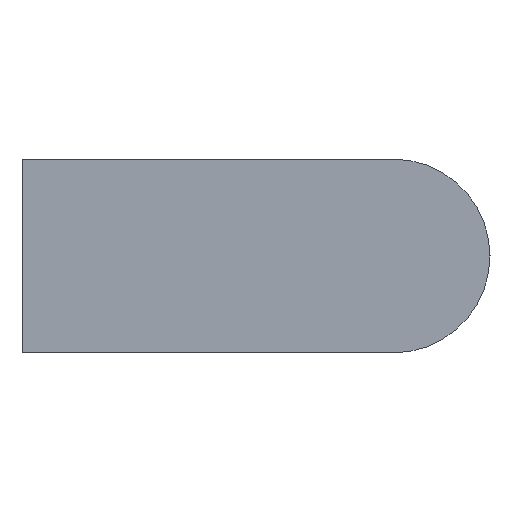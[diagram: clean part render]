
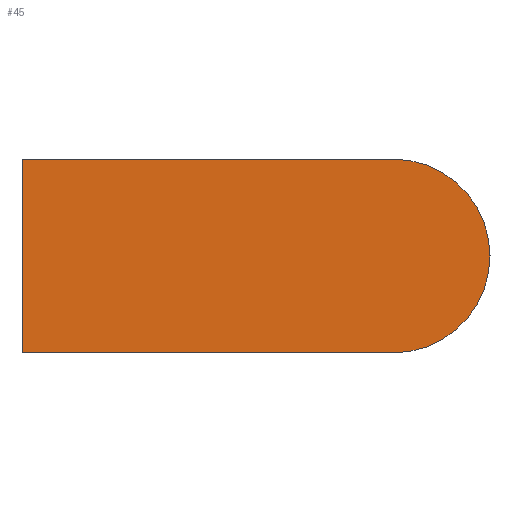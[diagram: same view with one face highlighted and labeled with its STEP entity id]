
A CAD part, left-side view. The second image highlights one B-rep face of the part: STEP entity #45.
In plain terms, the highlighted planar face has unit normal (-1, 0, 0).
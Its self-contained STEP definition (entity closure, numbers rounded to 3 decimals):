
#45 = ADVANCED_FACE( '', ( #99 ), #100, .F. );
#99 = FACE_OUTER_BOUND( '', #164, .T. );
#100 = PLANE( '', #165 );
#164 = EDGE_LOOP( '', ( #230, #231, #232, #233 ) );
#165 = AXIS2_PLACEMENT_3D( '', #234, #235, #236 );
#230 = ORIENTED_EDGE( '', *, *, #352, .F. );
#231 = ORIENTED_EDGE( '', *, *, #353, .F. );
#232 = ORIENTED_EDGE( '', *, *, #347, .F. );
#233 = ORIENTED_EDGE( '', *, *, #354, .F. );
#234 = CARTESIAN_POINT( '', ( -15., -28.04, 0. ) );
#235 = DIRECTION( '', ( 1., 0., 0. ) );
#236 = DIRECTION( '', ( 0., 0., -1. ) );
#347 = EDGE_CURVE( '', #396, #397, #398, .T. );
#352 = EDGE_CURVE( '', #405, #406, #407, .T. );
#353 = EDGE_CURVE( '', #397, #405, #408, .T. );
#354 = EDGE_CURVE( '', #406, #396, #409, .T. );
#396 = VERTEX_POINT( '', #465 );
#397 = VERTEX_POINT( '', #466 );
#398 = LINE( '', #467, #468 );
#405 = VERTEX_POINT( '', #478 );
#406 = VERTEX_POINT( '', #479 );
#407 = LINE( '', #480, #481 );
#408 = LINE( '', #482, #483 );
#409 = CIRCLE( '', #484, 7.32 );
#465 = CARTESIAN_POINT( '', ( -15., -28.04, -7.32 ) );
#466 = CARTESIAN_POINT( '', ( -15., 0., -7.32 ) );
#467 = CARTESIAN_POINT( '', ( -15., -28.04, -7.32 ) );
#468 = VECTOR( '', #554, 1000. );
#478 = CARTESIAN_POINT( '', ( -15., 0., 7.32 ) );
#479 = CARTESIAN_POINT( '', ( -15., -28.04, 7.32 ) );
#480 = CARTESIAN_POINT( '', ( -15., 0., 7.32 ) );
#481 = VECTOR( '', #558, 1000. );
#482 = CARTESIAN_POINT( '', ( -15., 0., -7.32 ) );
#483 = VECTOR( '', #559, 1000. );
#484 = AXIS2_PLACEMENT_3D( '', #560, #561, #562 );
#554 = DIRECTION( '', ( 0., 1., 0. ) );
#558 = DIRECTION( '', ( 0., -1., 0. ) );
#559 = DIRECTION( '', ( 0., 0., 1. ) );
#560 = CARTESIAN_POINT( '', ( -15., -28.04, 0. ) );
#561 = DIRECTION( '', ( 1., 0., 0. ) );
#562 = DIRECTION( '', ( 0., 0., -1. ) );
